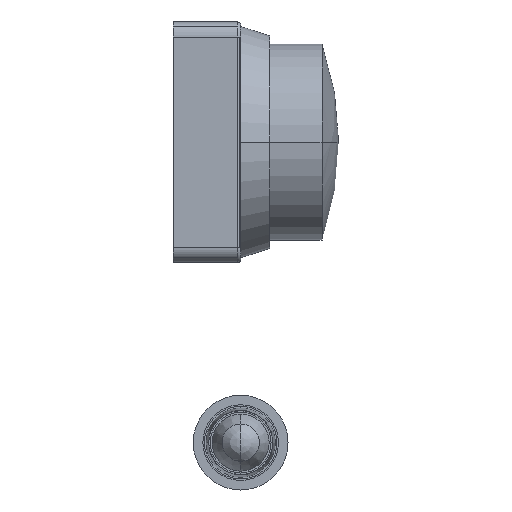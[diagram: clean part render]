
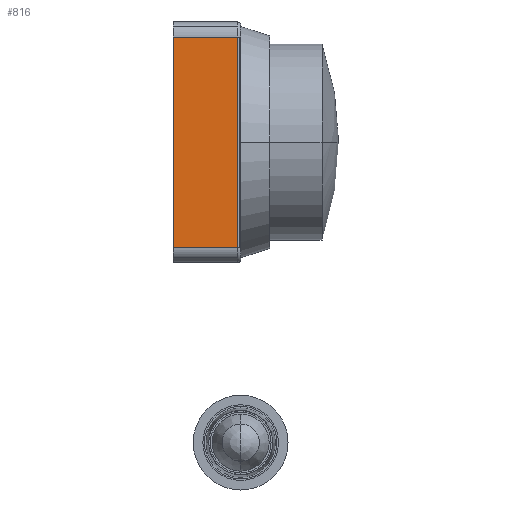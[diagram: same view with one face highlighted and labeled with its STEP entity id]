
A CAD part, left-side view. The second image highlights one B-rep face of the part: STEP entity #816.
In plain terms, the highlighted planar face has unit normal (-1, 0, 0).
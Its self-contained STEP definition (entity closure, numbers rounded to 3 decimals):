
#80=CARTESIAN_POINT('',(-40.0,-21.4,-35.));
#81=VERTEX_POINT('',#80);
#89=CARTESIAN_POINT('',(-40.0,0.0,-35.));
#90=VERTEX_POINT('',#89);
#91=CARTESIAN_POINT('',(-40.0,-21.4,-35.));
#92=DIRECTION('',(0.0,1.0,0.0));
#93=VECTOR('',#92,21.4);
#94=LINE('',#91,#93);
#95=EDGE_CURVE('',#81,#90,#94,.T.);
#328=CARTESIAN_POINT('',(-40.0,-21.4,35.));
#329=VERTEX_POINT('',#328);
#337=CARTESIAN_POINT('',(-40.0,-21.4,35.));
#338=DIRECTION('',(0.0,0.0,-1.0));
#339=VECTOR('',#338,70.0);
#340=LINE('',#337,#339);
#341=EDGE_CURVE('',#329,#81,#340,.T.);
#746=CARTESIAN_POINT('',(-40.0,0.0,35.));
#747=VERTEX_POINT('',#746);
#755=CARTESIAN_POINT('',(-40.0,0.0,35.));
#756=DIRECTION('',(0.0,-1.0,0.0));
#757=VECTOR('',#756,21.4);
#758=LINE('',#755,#757);
#759=EDGE_CURVE('',#747,#329,#758,.T.);
#800=CARTESIAN_POINT('',(-40.0,-40.978,40.));
#801=DIRECTION('',(-1.0,0.0,0.0));
#802=DIRECTION('',(0.0,1.0,0.0));
#803=AXIS2_PLACEMENT_3D('',#800,#801,#802);
#804=PLANE('',#803);
#805=ORIENTED_EDGE('',*,*,#341,.F.);
#806=ORIENTED_EDGE('',*,*,#759,.F.);
#807=CARTESIAN_POINT('',(-40.0,0.0,35.));
#808=DIRECTION('',(0.0,0.0,-1.0));
#809=VECTOR('',#808,70.0);
#810=LINE('',#807,#809);
#811=EDGE_CURVE('',#747,#90,#810,.T.);
#812=ORIENTED_EDGE('',*,*,#811,.T.);
#813=ORIENTED_EDGE('',*,*,#95,.F.);
#814=EDGE_LOOP('',(#805,#806,#812,#813));
#815=FACE_OUTER_BOUND('',#814,.T.);
#816=ADVANCED_FACE('',(#815),#804,.T.);
